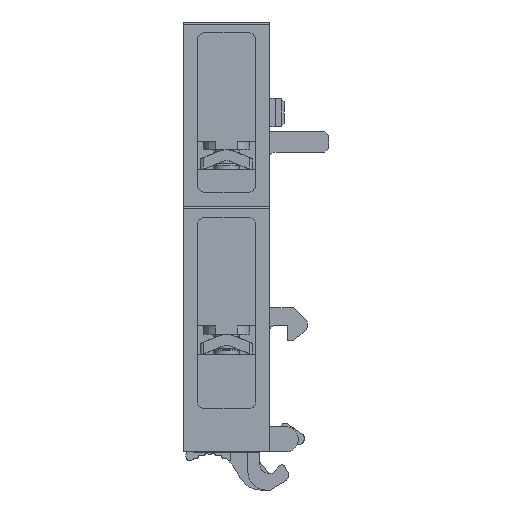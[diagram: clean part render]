
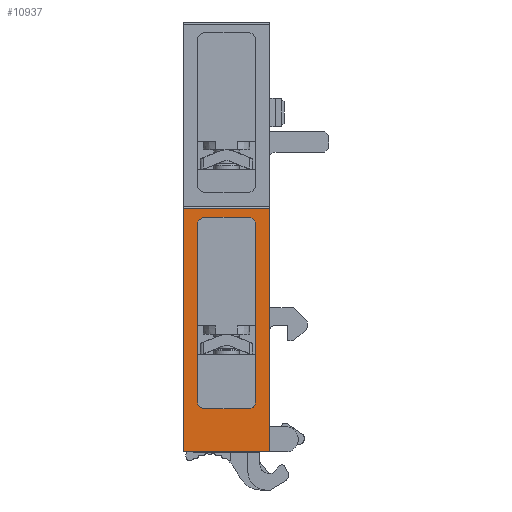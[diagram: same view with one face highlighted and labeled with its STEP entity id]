
A CAD part, front view. The second image highlights one B-rep face of the part: STEP entity #10937.
In plain terms, the highlighted planar face has unit normal (0, -1, 0).
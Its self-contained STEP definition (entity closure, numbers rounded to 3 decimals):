
#225=DIRECTION('',(0.,0.,-1.));
#226=VECTOR('',#225,33.85);
#227=CARTESIAN_POINT('',(0.,-34.7,3.925));
#228=LINE('',#227,#226);
#1857=DIRECTION('',(-1.,0.,0.));
#1858=VECTOR('',#1857,12.);
#1859=CARTESIAN_POINT('',(0.,-34.7,3.925));
#1860=LINE('',#1859,#1858);
#1864=CARTESIAN_POINT('',(-9.05,-34.7,-22.925));
#1865=DIRECTION('',(0.,1.,0.));
#1866=DIRECTION('',(0.,0.,-1.));
#1867=AXIS2_PLACEMENT_3D('',#1864,#1865,#1866);
#1872=DIRECTION('',(-1.,0.,0.));
#1873=VECTOR('',#1872,6.1);
#1874=CARTESIAN_POINT('',(-2.95,-34.7,-23.925));
#1875=LINE('',#1874,#1873);
#1879=CARTESIAN_POINT('',(-2.95,-34.7,-22.925));
#1880=DIRECTION('',(0.,1.,0.));
#1881=DIRECTION('',(1.,0.,0.));
#1882=AXIS2_PLACEMENT_3D('',#1879,#1880,#1881);
#1887=CARTESIAN_POINT('',(-2.95,-34.7,1.725));
#1888=DIRECTION('',(0.,1.,0.));
#1889=DIRECTION('',(0.,0.,1.));
#1890=AXIS2_PLACEMENT_3D('',#1887,#1888,#1889);
#1895=DIRECTION('',(1.,0.,0.));
#1896=VECTOR('',#1895,6.1);
#1897=CARTESIAN_POINT('',(-9.05,-34.7,2.725));
#1898=LINE('',#1897,#1896);
#1902=CARTESIAN_POINT('',(-9.05,-34.7,1.725));
#1903=DIRECTION('',(0.,1.,0.));
#1904=DIRECTION('',(-1.,0.,0.));
#1905=AXIS2_PLACEMENT_3D('',#1902,#1903,#1904);
#1945=DIRECTION('',(-1.,0.,0.));
#1946=VECTOR('',#1945,12.);
#1947=CARTESIAN_POINT('',(0.,-34.7,-29.925));
#1948=LINE('',#1947,#1946);
#2813=DIRECTION('',(0.,0.,-1.));
#2814=VECTOR('',#2813,33.85);
#2815=CARTESIAN_POINT('',(-12.,-34.7,3.925));
#2816=LINE('',#2815,#2814);
#6821=DIRECTION('',(0.,0.,1.));
#6822=VECTOR('',#6821,24.65);
#6823=CARTESIAN_POINT('',(-10.05,-34.7,-22.925));
#6824=LINE('',#6823,#6822);
#6863=DIRECTION('',(0.,0.,-1.));
#6864=VECTOR('',#6863,24.65);
#6865=CARTESIAN_POINT('',(-1.95,-34.7,1.725));
#6866=LINE('',#6865,#6864);
#8073=CARTESIAN_POINT('',(0.,-34.7,3.925));
#8074=VERTEX_POINT('',#8073);
#8075=CARTESIAN_POINT('',(0.,-34.7,-29.925));
#8076=VERTEX_POINT('',#8075);
#8113=CARTESIAN_POINT('',(-12.,-34.7,3.925));
#8114=VERTEX_POINT('',#8113);
#8115=CARTESIAN_POINT('',(-12.,-34.7,-29.925));
#8116=VERTEX_POINT('',#8115);
#9447=CARTESIAN_POINT('',(-10.05,-34.7,1.725));
#9448=CARTESIAN_POINT('',(-9.05,-34.7,2.725));
#9449=VERTEX_POINT('',#9447);
#9450=VERTEX_POINT('',#9448);
#9451=CARTESIAN_POINT('',(-2.95,-34.7,2.725));
#9452=VERTEX_POINT('',#9451);
#9453=CARTESIAN_POINT('',(-1.95,-34.7,1.725));
#9454=VERTEX_POINT('',#9453);
#9455=CARTESIAN_POINT('',(-1.95,-34.7,-22.925));
#9456=CARTESIAN_POINT('',(-2.95,-34.7,-23.925));
#9457=VERTEX_POINT('',#9455);
#9458=VERTEX_POINT('',#9456);
#9459=CARTESIAN_POINT('',(-9.05,-34.7,-23.925));
#9460=VERTEX_POINT('',#9459);
#9461=CARTESIAN_POINT('',(-10.05,-34.7,-22.925));
#9462=VERTEX_POINT('',#9461);
#10906=CARTESIAN_POINT('',(0.,-34.7,3.925));
#10907=DIRECTION('',(0.,-1.,0.));
#10908=DIRECTION('',(0.,0.,-1.));
#10909=AXIS2_PLACEMENT_3D('',#10906,#10907,#10908);
#10910=PLANE('',#10909);
#10911=ORIENTED_EDGE('',*,*,#9558,.T.);
#10913=ORIENTED_EDGE('',*,*,#10912,.T.);
#10915=ORIENTED_EDGE('',*,*,#10914,.F.);
#10916=ORIENTED_EDGE('',*,*,#10898,.F.);
#10917=EDGE_LOOP('',(#10911,#10913,#10915,#10916));
#10918=FACE_OUTER_BOUND('',#10917,.F.);
#10920=ORIENTED_EDGE('',*,*,#10919,.F.);
#10922=ORIENTED_EDGE('',*,*,#10921,.F.);
#10924=ORIENTED_EDGE('',*,*,#10923,.F.);
#10926=ORIENTED_EDGE('',*,*,#10925,.F.);
#10928=ORIENTED_EDGE('',*,*,#10927,.F.);
#10930=ORIENTED_EDGE('',*,*,#10929,.F.);
#10932=ORIENTED_EDGE('',*,*,#10931,.F.);
#10934=ORIENTED_EDGE('',*,*,#10933,.F.);
#10935=EDGE_LOOP('',(#10920,#10922,#10924,#10926,#10928,#10930,#10932,#10934));
#10936=FACE_BOUND('',#10935,.F.);
#1868=CIRCLE('',#1867,1.);
#1883=CIRCLE('',#1882,1.);
#1891=CIRCLE('',#1890,1.);
#1906=CIRCLE('',#1905,1.);
#9558=EDGE_CURVE('',#8074,#8076,#228,.T.);
#10898=EDGE_CURVE('',#8074,#8114,#1860,.T.);
#10912=EDGE_CURVE('',#8076,#8116,#1948,.T.);
#10914=EDGE_CURVE('',#8114,#8116,#2816,.T.);
#10919=EDGE_CURVE('',#9462,#9449,#6824,.T.);
#10921=EDGE_CURVE('',#9460,#9462,#1868,.T.);
#10923=EDGE_CURVE('',#9458,#9460,#1875,.T.);
#10925=EDGE_CURVE('',#9457,#9458,#1883,.T.);
#10927=EDGE_CURVE('',#9454,#9457,#6866,.T.);
#10929=EDGE_CURVE('',#9452,#9454,#1891,.T.);
#10931=EDGE_CURVE('',#9450,#9452,#1898,.T.);
#10933=EDGE_CURVE('',#9449,#9450,#1906,.T.);
#10937=ADVANCED_FACE('',(#10918,#10936),#10910,.T.);
